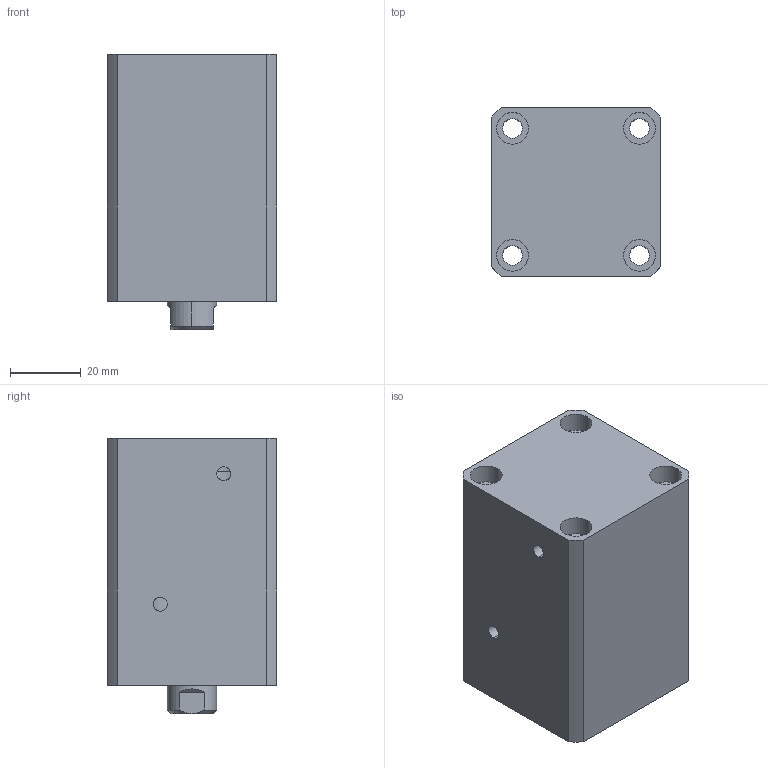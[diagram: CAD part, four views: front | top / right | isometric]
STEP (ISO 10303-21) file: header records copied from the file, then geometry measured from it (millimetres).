
FILE_DESCRIPTION (( 'STEP AP214' ), '1' );
FILE_NAME ('chtb-sdma25x25n_asm.STEP', '2018-05-22T07:03:43', ( 'Windows' ), ( 'Microsoft' ), 'SwSTEP 2.0', 'SolidWorks 2015', '' );
FILE_SCHEMA (( 'AUTOMOTIVE_DESIGN' ));
Length unit declared in the file: millimetre
Products named in the file (4): CHTB-SDMA25X25NHSG; CHTB-SDMA25X25NBT; CHTB-25QG; chtb-sdma25x25n_asm
Assembly tree (3 placements, depth 2):
  chtb-sdma25x25n_asm
    CHTB-25QG
    CHTB-SDMA25X25NBT
    CHTB-SDMA25X25NHSG
Bounding box: 48 x 48 x 78 mm (x, y, z)
Volume: 140999.5 mm3; surface area: 39650.6 mm2
Topology: 3 solids, 3 shells, 142 faces, 379 edges, 257 vertices
Faces by surface type: cylinder 89, plane 34, bspline 10, cone 9
Entity records: 8020 total; most frequent: CARTESIAN_POINT 4393, ORIENTED_EDGE 746, DIRECTION 661, EDGE_CURVE 373, AXIS2_PLACEMENT_3D 272, VERTEX_POINT 257, EDGE_LOOP 180, FACE_OUTER_BOUND 142
